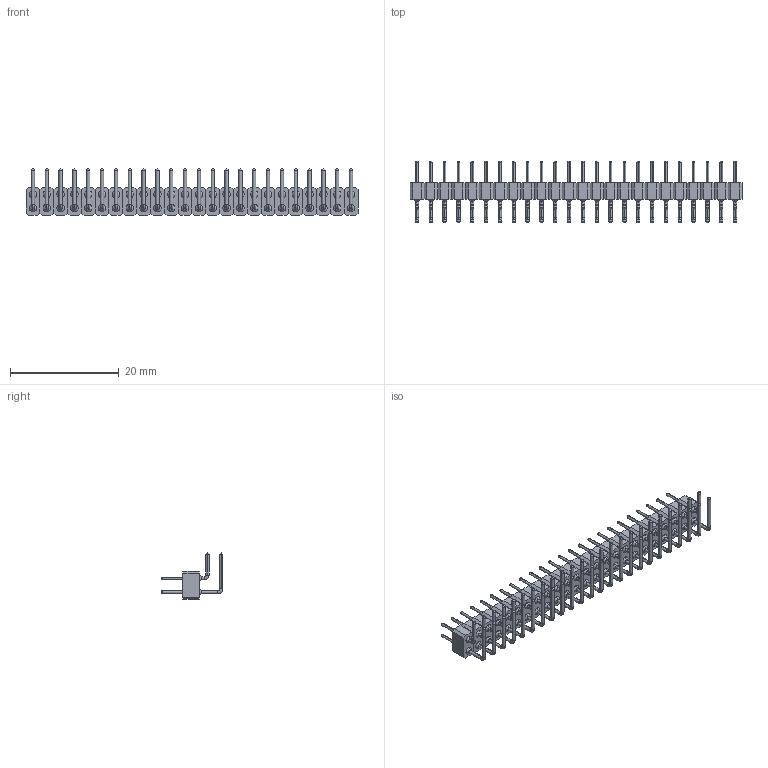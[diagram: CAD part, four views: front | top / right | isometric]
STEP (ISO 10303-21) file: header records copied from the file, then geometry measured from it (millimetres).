
FILE_DESCRIPTION (( 'STEP AP203' ), '1' );
FILE_NAME ('PZ254-2-24-W-3.0-XX-C (2.54 圆弯针 双排 排针 塑高3.0-HCTL).STEP', '2026-05-15T09:31:26', ( '' ), ( '' ), 'SwSTEP 2.0', 'SolidWorks 2025', '' );
FILE_SCHEMA (( 'CONFIG_CONTROL_DESIGN' ));
Length unit declared in the file: millimetre
Products named in the file (1): PZ254-2-24-W-3.0-XX-C (2.54 圆弯针 双排 排针 塑高3.0-HCTL)
Bounding box: 60.96 x 11.34 x 8.48 mm (x, y, z)
Volume: 1059.1 mm3; surface area: 2705.2 mm2
Topology: 24 solids, 24 shells, 1200 faces, 2784 edges, 1632 vertices
Faces by surface type: cylinder 480, plane 336, sphere 192, torus 96, cone 96
Entity records: 32003 total; most frequent: DIRECTION 6242, CARTESIAN_POINT 5233, ORIENTED_EDGE 4992, AXIS2_PLACEMENT_3D 2545, EDGE_CURVE 2496, VERTEX_POINT 1536, EDGE_LOOP 1392, CIRCLE 1344
